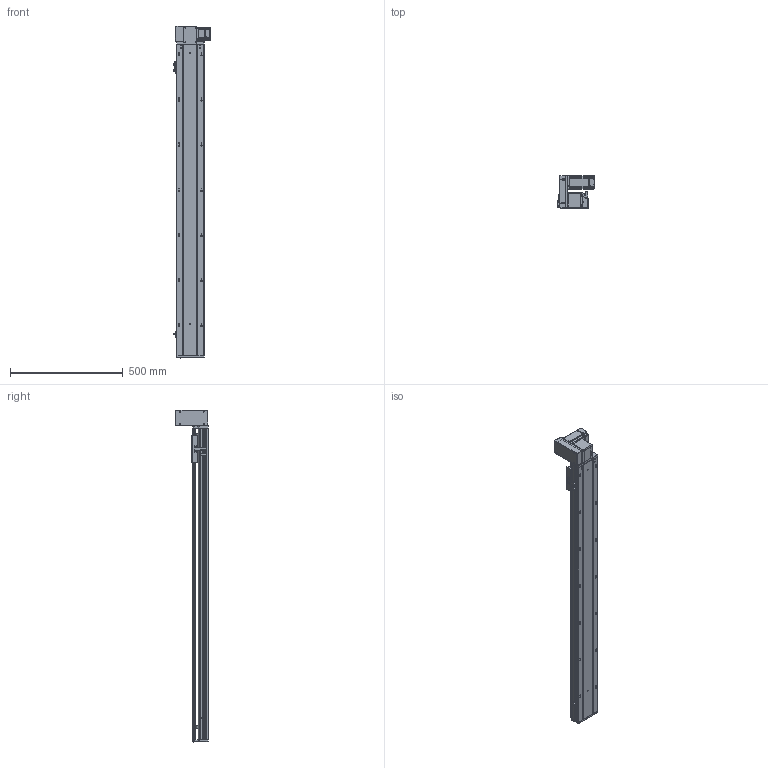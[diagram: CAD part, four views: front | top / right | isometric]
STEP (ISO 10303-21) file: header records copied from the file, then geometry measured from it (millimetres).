
FILE_DESCRIPTION (( 'STEP AP203' ), '1' );
FILE_NAME ('RY120-T-300-UL.SLDASM_1150.step', '2021-03-01T05:36:28', ( '盈信电脑' ), ( '东莞市道滘镇水果街19号' ), 'SwSTEP 2.0', 'SolidWorks 2012', '' );
FILE_SCHEMA (( 'CONFIG_CONTROL_DESIGN' ));
Length unit declared in the file: millimetre
Products named in the file (18): RY120-T-300-UL.SLDASM_1150; 滅袉蝶18-10; RY120-T蹟翐M4; RY120-T萇儂欶; RY120-T翋肮祭謫裔啣; 侂狟400W侜督萇儂; 15; RY120-T萇儂假蚾啣; RY120-T主同步轮轴承压盖; RY120-T翋肮祭盓傅釱; RY120-T肮祭湍揤踡輸2; RY120-T肮祭湍揤踡輸1; 覜茼ん672; RY120外置感应片(140共用）; RY120-T-300-UL倰第菁釱_1150; RY120-T-300-UL倰第奻裔啣_1150; RY120肮祭湍臏賑輸; RY120綴裔啣
Assembly tree (23 placements, depth 3):
  RY120-T-300-UL.SLDASM_1150
    RY120-T-300-UL倰第菁釱_1150
    RY120-T-300-UL倰第奻裔啣_1150
    RY120肮祭湍臏賑輸
    RY120綴裔啣
    覜茼ん672  x3
    RY120外置感应片(140共用）
    RY120-T肮祭湍揤踡輸1
    RY120-T肮祭湍揤踡輸2
    RY120-T翋肮祭盓傅釱
    RY120-T萇儂假蚾啣
    侂狟400W侜督萇儂
      15
    RY120-T主同步轮轴承压盖
    滅袉蝶18-10  x2
    RY120-T萇儂欶
    RY120-T蹟翐M4  x4
    RY120-T翋肮祭謫裔啣
Bounding box: 164.2 x 146 x 1471 mm (x, y, z)
Volume: 3946758.2 mm3; surface area: 1480474.9 mm2
Topology: 23 solids, 23 shells, 2836 faces, 7720 edges, 4940 vertices
Faces by surface type: plane 1412, cylinder 1074, cone 261, bspline 89
Entity records: 90034 total; most frequent: CARTESIAN_POINT 22732, ORIENTED_EDGE 13840, DIRECTION 13146, EDGE_CURVE 6920, VERTEX_POINT 4527, AXIS2_PLACEMENT_3D 4409, VECTOR 4328, LINE 4328
